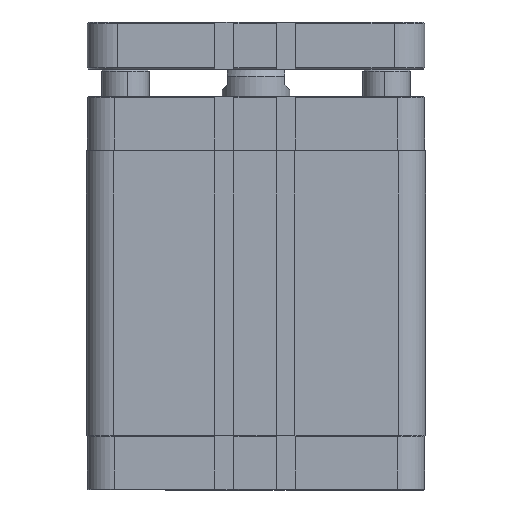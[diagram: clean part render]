
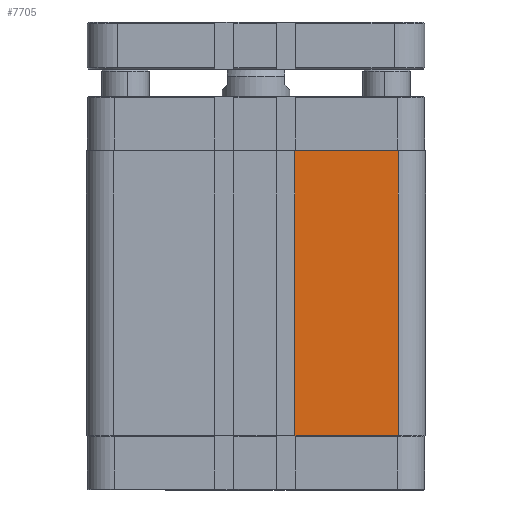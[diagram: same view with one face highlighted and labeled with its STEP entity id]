
A CAD part, left-side view. The second image highlights one B-rep face of the part: STEP entity #7705.
In plain terms, the highlighted planar face has unit normal (-1, 0, 0).
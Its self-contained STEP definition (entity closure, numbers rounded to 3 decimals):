
#2224 = DIRECTION ( 'NONE',  ( 1., 0., 0. ) ) ;
#2365 = EDGE_CURVE ( 'NONE', #2647, #5103, #15761, .T. ) ;
#2647 = VERTEX_POINT ( 'NONE', #27593 ) ;
#4381 = EDGE_CURVE ( 'NONE', #20971, #5103, #8679, .T. ) ;
#5103 = VERTEX_POINT ( 'NONE', #9488 ) ;
#6951 = DIRECTION ( 'NONE',  ( 0., 0., 1. ) ) ;
#7403 = DIRECTION ( 'NONE',  ( 0., 0., 1. ) ) ;
#7705 = ADVANCED_FACE ( 'NONE', ( #10641 ), #17770, .F. ) ;
#8679 = LINE ( 'NONE', #37124, #31821 ) ;
#9488 = CARTESIAN_POINT ( 'NONE',  ( -50., -42., -16. ) ) ;
#9929 = ORIENTED_EDGE ( 'NONE', *, *, #27468, .F. ) ;
#10641 = FACE_OUTER_BOUND ( 'NONE', #24130, .T. ) ;
#11869 = CARTESIAN_POINT ( 'NONE',  ( -50., -50., -16. ) ) ;
#12357 = DIRECTION ( 'NONE',  ( 0., 1., 0. ) ) ;
#15761 = LINE ( 'NONE', #38216, #36473 ) ;
#17400 = ORIENTED_EDGE ( 'NONE', *, *, #4381, .F. ) ;
#17770 = PLANE ( 'NONE',  #27489 ) ;
#18585 = VECTOR ( 'NONE', #7403, 1000. ) ;
#19120 = ORIENTED_EDGE ( 'NONE', *, *, #2365, .T. ) ;
#20586 = LINE ( 'NONE', #26141, #18585 ) ;
#20971 = VERTEX_POINT ( 'NONE', #25607 ) ;
#21451 = VERTEX_POINT ( 'NONE', #31210 ) ;
#22112 = CARTESIAN_POINT ( 'NONE',  ( -50., -42., -100. ) ) ;
#22204 = ORIENTED_EDGE ( 'NONE', *, *, #35488, .F. ) ;
#24130 = EDGE_LOOP ( 'NONE', ( #17400, #22204, #9929, #19120 ) ) ;
#24248 = DIRECTION ( 'NONE',  ( 0., 0., -1. ) ) ;
#24675 = VECTOR ( 'NONE', #12357, 1000. ) ;
#25607 = CARTESIAN_POINT ( 'NONE',  ( -50., -11.5, -16. ) ) ;
#26141 = CARTESIAN_POINT ( 'NONE',  ( -50., -11.5, -40. ) ) ;
#27468 = EDGE_CURVE ( 'NONE', #2647, #21451, #31525, .T. ) ;
#27489 = AXIS2_PLACEMENT_3D ( 'NONE', #11869, #2224, #24248 ) ;
#27593 = CARTESIAN_POINT ( 'NONE',  ( -50., -42., -100. ) ) ;
#31210 = CARTESIAN_POINT ( 'NONE',  ( -50., -11.5, -100. ) ) ;
#31525 = LINE ( 'NONE', #22112, #24675 ) ;
#31821 = VECTOR ( 'NONE', #40138, 1000. ) ;
#35488 = EDGE_CURVE ( 'NONE', #21451, #20971, #20586, .T. ) ;
#36473 = VECTOR ( 'NONE', #6951, 1000. ) ;
#37124 = CARTESIAN_POINT ( 'NONE',  ( -50., -50., -16. ) ) ;
#38216 = CARTESIAN_POINT ( 'NONE',  ( -50., -42., -16. ) ) ;
#40138 = DIRECTION ( 'NONE',  ( 0., -1., 0. ) ) ;
